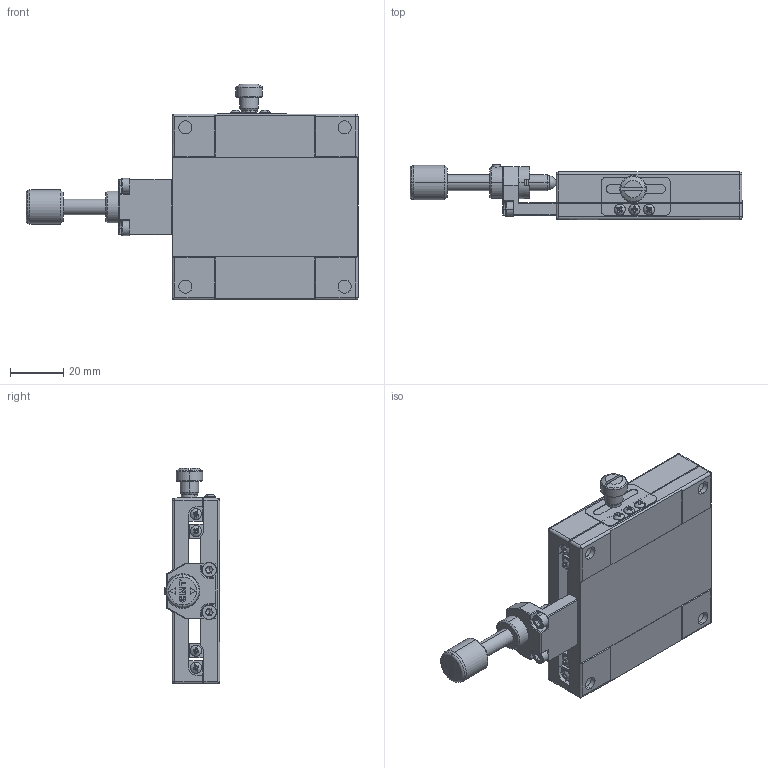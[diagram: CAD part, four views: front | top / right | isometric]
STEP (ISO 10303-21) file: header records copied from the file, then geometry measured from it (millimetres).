
FILE_DESCRIPTION (( 'STEP AP203' ), '1' );
FILE_NAME ('MX70-SC-28(«¬¿ý).STEP', '2015-06-18T07:09:00', ( '' ), ( '' ), 'SwSTEP 2.0', 'SolidWorks 2015', '' );
FILE_SCHEMA (( 'CONFIG_CONTROL_DESIGN' ));
Length unit declared in the file: millimetre
Products named in the file (3): Group1^MX70-SC-28(模糊化); Group2^MX70-SC-28(模糊化); MX70-SC-28(型錄)
Assembly tree (2 placements, depth 2):
  MX70-SC-28(型錄)
    Group1^MX70-SC-28(模糊化)
    Group2^MX70-SC-28(模糊化)
Bounding box: 125 x 21 x 81.3 mm (x, y, z)
Volume: 77885.3 mm3; surface area: 31245.1 mm2
Topology: 2 solids, 2 shells, 1167 faces, 3108 edges, 1991 vertices
Faces by surface type: plane 728, cylinder 183, bspline 124, cone 94, sphere 30, torus 8
Entity records: 42490 total; most frequent: CARTESIAN_POINT 13703, ORIENTED_EDGE 6148, DIRECTION 5587, EDGE_CURVE 3074, VERTEX_POINT 1991, VECTOR 1905, LINE 1905, AXIS2_PLACEMENT_3D 1841
